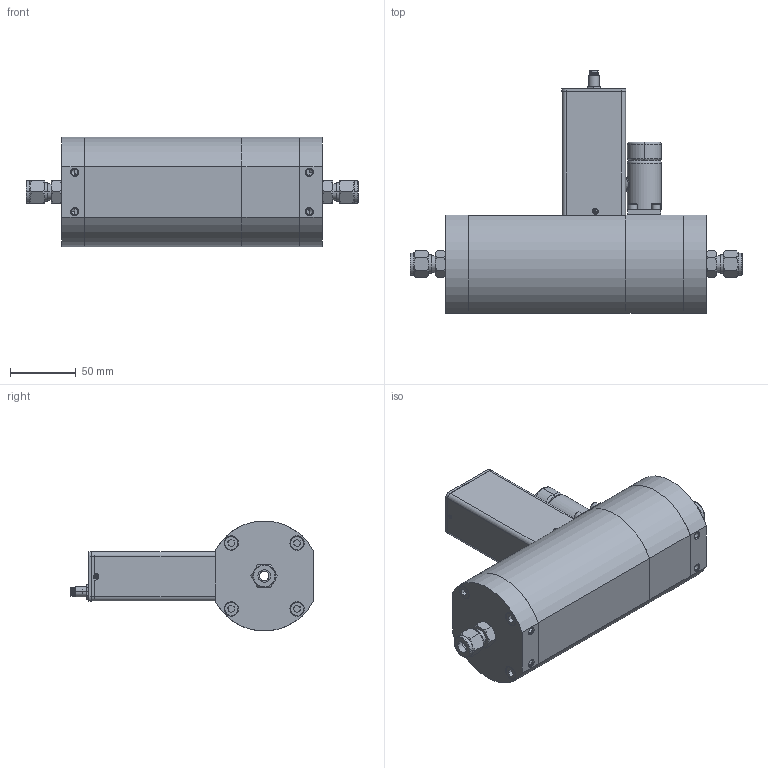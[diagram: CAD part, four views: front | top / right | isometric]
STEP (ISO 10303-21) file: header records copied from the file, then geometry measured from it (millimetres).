
FILE_DESCRIPTION (( 'STEP AP203' ), '1' );
FILE_NAME ('SLA5853-E-2C-2-A-REVB.STEP', '2021-07-08T13:08:56', ( '' ), ( '' ), 'SwSTEP 2.0', 'SolidWorks 2020', '' );
FILE_SCHEMA (( 'CONFIG_CONTROL_DESIGN' ));
Length unit declared in the file: inch
Products named in the file (1): SLA5853-E-2C-2-A-REVB
Bounding box: 253.16 x 184.92 x 83.73 mm (x, y, z)
Surface area: 188626.7 mm2 (no closed solid volume)
Topology: 0 solids, 36 shells, 2256 faces, 5921 edges, 3867 vertices
Faces by surface type: plane 1285, cylinder 645, cone 217, bspline 109
Entity records: 74182 total; most frequent: CARTESIAN_POINT 17899, ORIENTED_EDGE 11800, DIRECTION 11496, EDGE_CURVE 5905, VECTOR 3914, LINE 3914, VERTEX_POINT 3867, AXIS2_PLACEMENT_3D 3791
